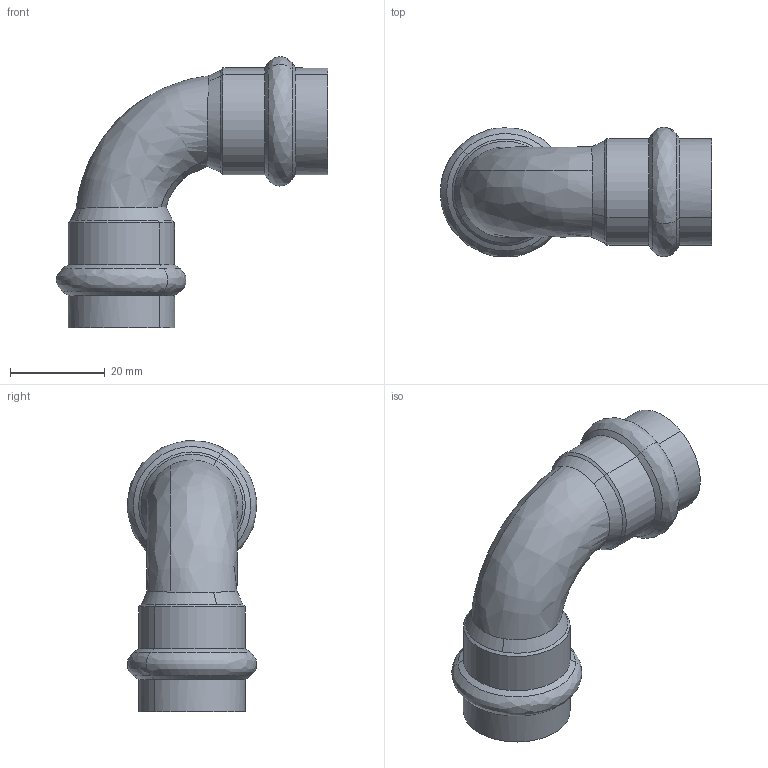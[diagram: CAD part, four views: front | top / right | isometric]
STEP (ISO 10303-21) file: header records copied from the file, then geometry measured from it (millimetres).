
FILE_DESCRIPTION(('STEP AP214'),'1');
FILE_NAME('pim0004429.stp','2015-04-30T05:05:46',('Cad-Pim'),('TransMagic, Inc.'),'TMR11sp0','TransMagic R11',' ');
FILE_SCHEMA(('AUTOMOTIVE_DESIGN'));
Length unit declared in the file: millimetre
Products named in the file (1): pim0004429
Bounding box: 57.21 x 27.36 x 57.18 mm (x, y, z)
Volume: 16698.5 mm3; surface area: 9129.6 mm2
Topology: 1 solids, 1 shells, 38 faces, 98 edges, 64 vertices
Faces by surface type: bspline 14, cylinder 12, cone 12
Entity records: 2032 total; most frequent: CARTESIAN_POINT 917, ORIENTED_EDGE 196, DIRECTION 134, EDGE_CURVE 98, VERTEX_POINT 64, AXIS2_PLACEMENT_3D 53, EDGE_LOOP 40, STYLED_ITEM 39
